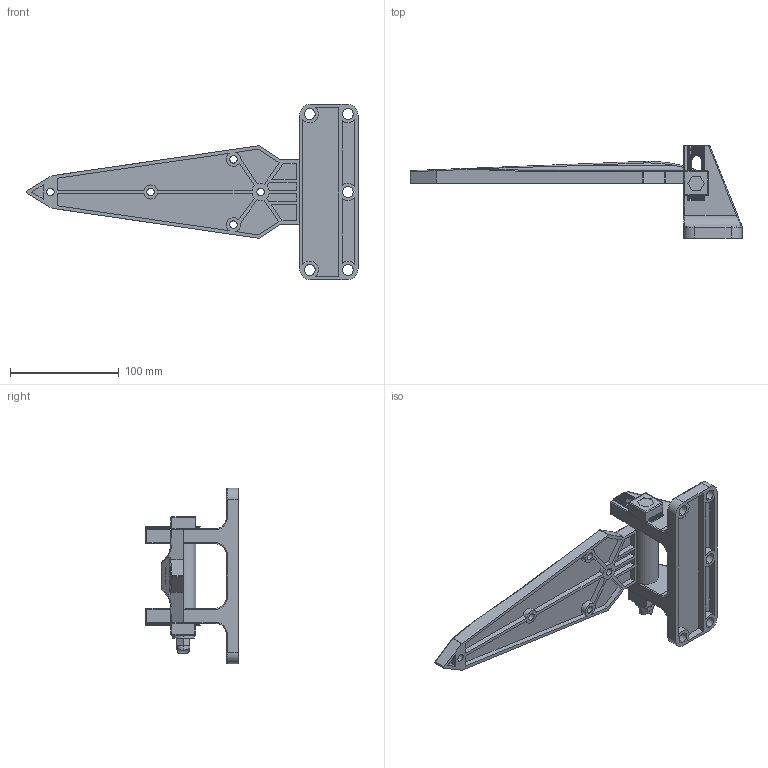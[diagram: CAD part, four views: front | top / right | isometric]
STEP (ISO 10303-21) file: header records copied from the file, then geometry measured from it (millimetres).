
FILE_DESCRIPTION (( 'STEP AP203' ), '1' );
FILE_NAME ('B-1470.STEP', '2015-11-18T05:37:14', ( '' ), ( '' ), 'SwSTEP 2.0', 'SolidWorks 2014', '' );
FILE_SCHEMA (( 'CONFIG_CONTROL_DESIGN' ));
Length unit declared in the file: millimetre
Products named in the file (1): B-1470
Bounding box: 304.66 x 85 x 161 mm (x, y, z)
Volume: 316542.4 mm3; surface area: 90901.2 mm2
Topology: 1 solids, 1 shells, 668 faces, 1851 edges, 1178 vertices
Faces by surface type: plane 466, cylinder 126, bspline 27, sphere 20, torus 16, cone 13
Entity records: 23635 total; most frequent: CARTESIAN_POINT 6823, ORIENTED_EDGE 3676, DIRECTION 3255, EDGE_CURVE 1838, LINE 1405, VECTOR 1405, VERTEX_POINT 1178, AXIS2_PLACEMENT_3D 925
